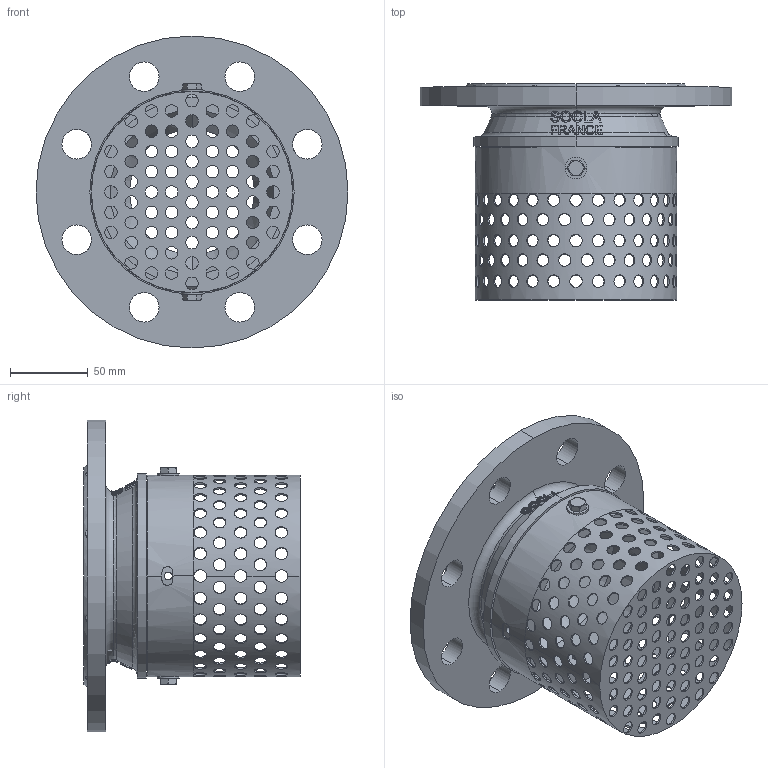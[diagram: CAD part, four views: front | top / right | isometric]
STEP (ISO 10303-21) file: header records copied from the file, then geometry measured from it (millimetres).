
FILE_DESCRIPTION (( 'STEP AP214' ), '1' );
FILE_NAME ('2141.STEP', '2024-09-30T14:52:59', ( '' ), ( '' ), 'SwSTEP 2.0', 'SolidWorks 2023', '' );
FILE_SCHEMA (( 'AUTOMOTIVE_DESIGN' ));
Length unit declared in the file: millimetre
Products named in the file (4): 2141; prt-0000000000007531_D80U; prt-0000000000005440_vis HM  6 X  16; PRT_FRVIR_0000003058_D80
Assembly tree (4 placements, depth 2):
  2141
    prt-0000000000007531_D80U
    PRT_FRVIR_0000003058_D80
    prt-0000000000005440_vis HM  6 X  16  x2
Bounding box: 200 x 138.5 x 200 mm (x, y, z)
Volume: 507930 mm3; surface area: 197088.5 mm2
Topology: 4 solids, 4 shells, 856 faces, 2643 edges, 1758 vertices
Faces by surface type: cylinder 499, plane 159, bspline 91, torus 62, cone 45
Entity records: 53765 total; most frequent: CARTESIAN_POINT 31799, ORIENTED_EDGE 5116, DIRECTION 3595, EDGE_CURVE 2558, VERTEX_POINT 1691, AXIS2_PLACEMENT_3D 1414, EDGE_LOOP 1249, B_SPLINE_CURVE_WITH_KNOTS 1113
